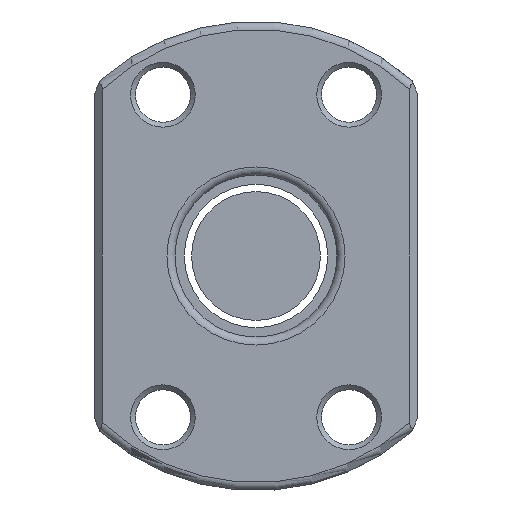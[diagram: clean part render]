
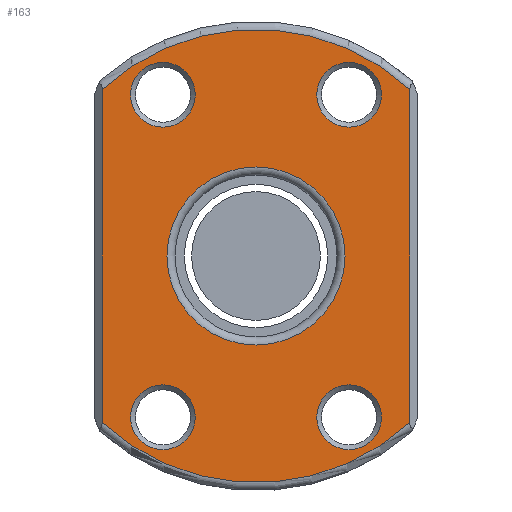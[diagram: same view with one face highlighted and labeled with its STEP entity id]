
A CAD part, front view. The second image highlights one B-rep face of the part: STEP entity #163.
In plain terms, the highlighted planar face has unit normal (0, -1, 0).
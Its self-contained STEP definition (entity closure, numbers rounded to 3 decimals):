
#54=LINE('',#973,#78);
#55=LINE('',#977,#79);
#78=VECTOR('',#792,1.);
#79=VECTOR('',#795,1.);
#126=PLANE('',#694);
#163=ADVANCED_FACE('',(#218,#219,#220,#221,#222,#223),#126,.T.);
#218=FACE_BOUND('',#278,.T.);
#219=FACE_BOUND('',#279,.T.);
#220=FACE_BOUND('',#280,.T.);
#221=FACE_BOUND('',#281,.T.);
#222=FACE_BOUND('',#282,.T.);
#223=FACE_BOUND('',#283,.T.);
#278=EDGE_LOOP('',(#354));
#279=EDGE_LOOP('',(#355));
#280=EDGE_LOOP('',(#356));
#281=EDGE_LOOP('',(#357));
#282=EDGE_LOOP('',(#358));
#283=EDGE_LOOP('',(#359,#360,#361,#362));
#354=ORIENTED_EDGE('',*,*,#567,.T.);
#355=ORIENTED_EDGE('',*,*,#568,.T.);
#356=ORIENTED_EDGE('',*,*,#569,.T.);
#357=ORIENTED_EDGE('',*,*,#570,.T.);
#358=ORIENTED_EDGE('',*,*,#571,.T.);
#359=ORIENTED_EDGE('',*,*,#572,.T.);
#360=ORIENTED_EDGE('',*,*,#573,.T.);
#361=ORIENTED_EDGE('',*,*,#574,.T.);
#362=ORIENTED_EDGE('',*,*,#575,.T.);
#506=VERTEX_POINT('',#961);
#507=VERTEX_POINT('',#963);
#508=VERTEX_POINT('',#965);
#509=VERTEX_POINT('',#967);
#510=VERTEX_POINT('',#969);
#511=VERTEX_POINT('',#971);
#512=VERTEX_POINT('',#972);
#513=VERTEX_POINT('',#974);
#514=VERTEX_POINT('',#976);
#567=EDGE_CURVE('',#506,#506,#644,.T.);
#568=EDGE_CURVE('',#507,#507,#645,.T.);
#569=EDGE_CURVE('',#508,#508,#646,.T.);
#570=EDGE_CURVE('',#509,#509,#647,.T.);
#571=EDGE_CURVE('',#510,#510,#648,.T.);
#572=EDGE_CURVE('',#511,#512,#649,.T.);
#573=EDGE_CURVE('',#512,#513,#54,.T.);
#574=EDGE_CURVE('',#513,#514,#650,.T.);
#575=EDGE_CURVE('',#514,#511,#55,.T.);
#644=CIRCLE('',#687,5.5);
#645=CIRCLE('',#688,2.);
#646=CIRCLE('',#689,2.);
#647=CIRCLE('',#690,2.);
#648=CIRCLE('',#691,2.);
#649=CIRCLE('',#692,14.);
#650=CIRCLE('',#693,14.);
#687=AXIS2_PLACEMENT_3D('',#960,#780,#781);
#688=AXIS2_PLACEMENT_3D('',#962,#782,#783);
#689=AXIS2_PLACEMENT_3D('',#964,#784,#785);
#690=AXIS2_PLACEMENT_3D('',#966,#786,#787);
#691=AXIS2_PLACEMENT_3D('',#968,#788,#789);
#692=AXIS2_PLACEMENT_3D('',#970,#790,#791);
#693=AXIS2_PLACEMENT_3D('',#975,#793,#794);
#694=AXIS2_PLACEMENT_3D('',#978,#796,#797);
#780=DIRECTION('',(0.,1.,0.));
#781=DIRECTION('',(0.,0.,-1.));
#782=DIRECTION('',(0.,1.,0.));
#783=DIRECTION('',(0.,0.,-1.));
#784=DIRECTION('',(0.,1.,0.));
#785=DIRECTION('',(0.,0.,-1.));
#786=DIRECTION('',(0.,1.,0.));
#787=DIRECTION('',(0.,0.,-1.));
#788=DIRECTION('',(0.,1.,0.));
#789=DIRECTION('',(0.,0.,-1.));
#790=DIRECTION('',(0.,-1.,0.));
#791=DIRECTION('',(0.,0.,-1.));
#792=DIRECTION('',(0.,0.,-1.));
#793=DIRECTION('',(0.,-1.,0.));
#794=DIRECTION('',(0.,0.,-1.));
#795=DIRECTION('',(0.,0.,1.));
#796=DIRECTION('',(0.,-1.,0.));
#797=DIRECTION('',(0.,0.,-1.));
#960=CARTESIAN_POINT('',(0.,0.,0.));
#961=CARTESIAN_POINT('',(0.,0.,-5.5));
#962=CARTESIAN_POINT('',(5.75,0.,-9.959));
#963=CARTESIAN_POINT('',(5.75,0.,-11.959));
#964=CARTESIAN_POINT('',(-5.75,0.,-9.959));
#965=CARTESIAN_POINT('',(-5.75,0.,-11.959));
#966=CARTESIAN_POINT('',(-5.75,0.,9.959));
#967=CARTESIAN_POINT('',(-5.75,0.,7.959));
#968=CARTESIAN_POINT('',(5.75,0.,9.959));
#969=CARTESIAN_POINT('',(5.75,0.,7.959));
#970=CARTESIAN_POINT('',(0.,0.,0.));
#971=CARTESIAN_POINT('',(9.5,0.,10.283));
#972=CARTESIAN_POINT('',(-9.5,0.,10.283));
#973=CARTESIAN_POINT('',(-9.5,0.,-9.798));
#974=CARTESIAN_POINT('',(-9.5,0.,-10.283));
#975=CARTESIAN_POINT('',(0.,0.,0.));
#976=CARTESIAN_POINT('',(9.5,0.,-10.283));
#977=CARTESIAN_POINT('',(9.5,0.,9.798));
#978=CARTESIAN_POINT('',(0.,0.,0.));
